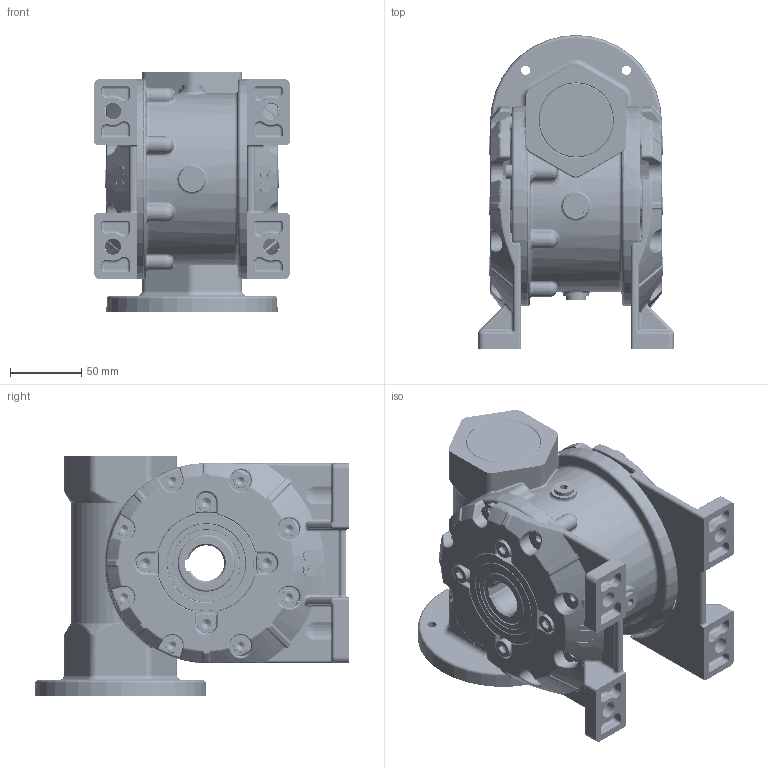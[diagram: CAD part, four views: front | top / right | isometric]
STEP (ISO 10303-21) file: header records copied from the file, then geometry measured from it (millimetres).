
FILE_DESCRIPTION (( 'STEP AP203' ), '1' );
FILE_NAME ('Sestava MRT60A-A.STEP', '2005-08-15T10:32:56', ( '' ), ( '' ), 'SwSTEP 2.0', 'SolidWorks 2004146', '' );
FILE_SCHEMA (( 'CONFIG_CONTROL_DESIGN' ));
Products named in the file (1): Sestava MRT60A-A
Bounding box: 137 x 220 x 168 mm (x, y, z)
Volume: 1433162.9 mm3; surface area: 491463.6 mm2
Topology: 40 solids, 42 shells, 4932 faces, 12009 edges, 6783 vertices
Faces by surface type: cylinder 1187, torus 1060, bspline 957, plane 872, cone 668, sphere 188
Entity records: 493037 total; most frequent: CARTESIAN_POINT 385290, ORIENTED_EDGE 23022, DIRECTION 22330, EDGE_CURVE 11511, AXIS2_PLACEMENT_3D 9849, VERTEX_POINT 6671, CIRCLE 5873, EDGE_LOOP 5198
